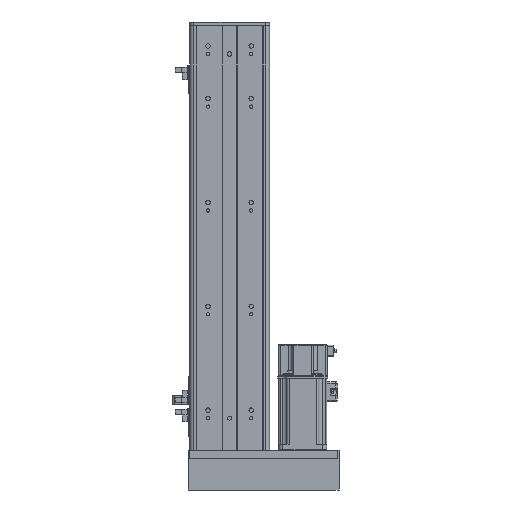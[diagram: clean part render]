
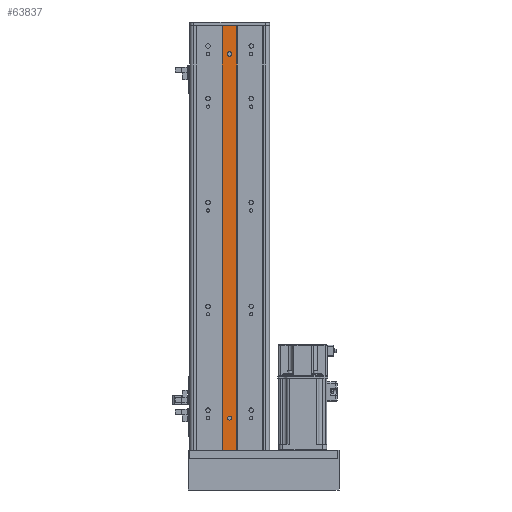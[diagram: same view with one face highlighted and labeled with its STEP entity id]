
A CAD part, front view. The second image highlights one B-rep face of the part: STEP entity #63837.
In plain terms, the highlighted planar face has unit normal (0, -1, 0).
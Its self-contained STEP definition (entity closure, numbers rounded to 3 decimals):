
#221 = VERTEX_POINT ( 'NONE', #45504 ) ;
#929 = DIRECTION ( 'NONE',  ( 1., 0., 0. ) ) ;
#930 = ORIENTED_EDGE ( 'NONE', *, *, #17117, .F. ) ;
#999 = VERTEX_POINT ( 'NONE', #58358 ) ;
#1026 = ORIENTED_EDGE ( 'NONE', *, *, #18123, .T. ) ;
#1317 = CARTESIAN_POINT ( 'NONE',  ( 9., 1.309, 661. ) ) ;
#2037 = CARTESIAN_POINT ( 'NONE',  ( 2.5, 1.309, 661. ) ) ;
#2163 = ORIENTED_EDGE ( 'NONE', *, *, #26363, .T. ) ;
#2353 = LINE ( 'NONE', #1317, #36403 ) ;
#2521 = CIRCLE ( 'NONE', #53332, 2.5 ) ;
#2562 = VECTOR ( 'NONE', #929, 1000. ) ;
#2652 = PLANE ( 'NONE',  #32668 ) ;
#2733 = CARTESIAN_POINT ( 'NONE',  ( -9., 1.309, 661. ) ) ;
#2892 = AXIS2_PLACEMENT_3D ( 'NONE', #43404, #48696, #16884 ) ;
#4512 = EDGE_CURVE ( 'NONE', #42186, #999, #49901, .T. ) ;
#6471 = FACE_OUTER_BOUND ( 'NONE', #57879, .T. ) ;
#6870 = CARTESIAN_POINT ( 'NONE',  ( 2.5, 1.309, 626.5 ) ) ;
#6949 = VERTEX_POINT ( 'NONE', #42593 ) ;
#8155 = CARTESIAN_POINT ( 'NONE',  ( -2.5, 1.309, 661. ) ) ;
#8196 = CARTESIAN_POINT ( 'NONE',  ( 0., 1.309, 661. ) ) ;
#8215 = CIRCLE ( 'NONE', #31992, 2.5 ) ;
#8230 = LINE ( 'NONE', #2037, #22264 ) ;
#11492 = CARTESIAN_POINT ( 'NONE',  ( -2.5, 1.309, 625.5 ) ) ;
#16397 = LINE ( 'NONE', #55220, #28905 ) ;
#16884 = DIRECTION ( 'NONE',  ( 0., 0., 1. ) ) ;
#16992 = DIRECTION ( 'NONE',  ( 0., 0., 1. ) ) ;
#17117 = EDGE_CURVE ( 'NONE', #999, #63131, #2353, .T. ) ;
#18123 = EDGE_CURVE ( 'NONE', #221, #27751, #2521, .T. ) ;
#21207 = DIRECTION ( 'NONE',  ( 0., 0., 1. ) ) ;
#21382 = VECTOR ( 'NONE', #59296, 1000. ) ;
#22264 = VECTOR ( 'NONE', #55613, 1000. ) ;
#22655 = DIRECTION ( 'NONE',  ( 0., 0., -1. ) ) ;
#23076 = LINE ( 'NONE', #2733, #21382 ) ;
#23978 = DIRECTION ( 'NONE',  ( 0., 1., 0. ) ) ;
#23979 = DIRECTION ( 'NONE',  ( 0., 1., 0. ) ) ;
#24162 = EDGE_CURVE ( 'NONE', #63131, #6949, #16397, .T. ) ;
#24438 = EDGE_CURVE ( 'NONE', #45590, #30376, #42137, .T. ) ;
#26363 = EDGE_CURVE ( 'NONE', #38024, #45590, #32482, .T. ) ;
#27725 = EDGE_CURVE ( 'NONE', #33795, #38024, #8215, .T. ) ;
#27751 = VERTEX_POINT ( 'NONE', #55077 ) ;
#27965 = EDGE_LOOP ( 'NONE', ( #38171, #1026 ) ) ;
#28905 = VECTOR ( 'NONE', #34379, 1000. ) ;
#29718 = ORIENTED_EDGE ( 'NONE', *, *, #51685, .T. ) ;
#30376 = VERTEX_POINT ( 'NONE', #6870 ) ;
#31470 = CARTESIAN_POINT ( 'NONE',  ( 0., 1.309, 170. ) ) ;
#31992 = AXIS2_PLACEMENT_3D ( 'NONE', #65858, #49972, #60580 ) ;
#32167 = DIRECTION ( 'NONE',  ( 0., 1., 0. ) ) ;
#32173 = FACE_BOUND ( 'NONE', #27965, .T. ) ;
#32482 = LINE ( 'NONE', #8155, #44925 ) ;
#32668 = AXIS2_PLACEMENT_3D ( 'NONE', #8196, #23978, #61491 ) ;
#33041 = FACE_BOUND ( 'NONE', #33908, .T. ) ;
#33795 = VERTEX_POINT ( 'NONE', #51079 ) ;
#33908 = EDGE_LOOP ( 'NONE', ( #2163, #49194, #29718, #40314 ) ) ;
#34379 = DIRECTION ( 'NONE',  ( -1., 0., 0. ) ) ;
#35562 = EDGE_CURVE ( 'NONE', #42186, #6949, #23076, .T. ) ;
#36403 = VECTOR ( 'NONE', #22655, 1000. ) ;
#37214 = AXIS2_PLACEMENT_3D ( 'NONE', #31470, #32167, #21207 ) ;
#38024 = VERTEX_POINT ( 'NONE', #11492 ) ;
#38171 = ORIENTED_EDGE ( 'NONE', *, *, #39045, .T. ) ;
#39045 = EDGE_CURVE ( 'NONE', #27751, #221, #45394, .T. ) ;
#39485 = CARTESIAN_POINT ( 'NONE',  ( -2.5, 1.309, 626.5 ) ) ;
#40314 = ORIENTED_EDGE ( 'NONE', *, *, #27725, .T. ) ;
#42137 = CIRCLE ( 'NONE', #2892, 2.5 ) ;
#42186 = VERTEX_POINT ( 'NONE', #43424 ) ;
#42593 = CARTESIAN_POINT ( 'NONE',  ( -9., 1.309, 130. ) ) ;
#43404 = CARTESIAN_POINT ( 'NONE',  ( 0., 1.309, 626.5 ) ) ;
#43419 = CARTESIAN_POINT ( 'NONE',  ( -9., 1.309, 661. ) ) ;
#43424 = CARTESIAN_POINT ( 'NONE',  ( -9., 1.309, 661. ) ) ;
#44925 = VECTOR ( 'NONE', #61665, 1000. ) ;
#45394 = CIRCLE ( 'NONE', #37214, 2.5 ) ;
#45504 = CARTESIAN_POINT ( 'NONE',  ( -2.5, 1.309, 170. ) ) ;
#45590 = VERTEX_POINT ( 'NONE', #39485 ) ;
#48696 = DIRECTION ( 'NONE',  ( 0., 1., 0. ) ) ;
#49194 = ORIENTED_EDGE ( 'NONE', *, *, #24438, .T. ) ;
#49598 = CARTESIAN_POINT ( 'NONE',  ( 9., 1.309, 130. ) ) ;
#49717 = ORIENTED_EDGE ( 'NONE', *, *, #35562, .T. ) ;
#49901 = LINE ( 'NONE', #43419, #2562 ) ;
#49972 = DIRECTION ( 'NONE',  ( 0., 1., 0. ) ) ;
#50437 = CARTESIAN_POINT ( 'NONE',  ( 0., 1.309, 170. ) ) ;
#50848 = ORIENTED_EDGE ( 'NONE', *, *, #4512, .F. ) ;
#51079 = CARTESIAN_POINT ( 'NONE',  ( 2.5, 1.309, 625.5 ) ) ;
#51685 = EDGE_CURVE ( 'NONE', #30376, #33795, #8230, .T. ) ;
#53332 = AXIS2_PLACEMENT_3D ( 'NONE', #50437, #23979, #16992 ) ;
#55077 = CARTESIAN_POINT ( 'NONE',  ( 2.5, 1.309, 170. ) ) ;
#55220 = CARTESIAN_POINT ( 'NONE',  ( 0., 1.309, 130. ) ) ;
#55613 = DIRECTION ( 'NONE',  ( 0., 0., -1. ) ) ;
#57879 = EDGE_LOOP ( 'NONE', ( #64787, #930, #50848, #49717 ) ) ;
#58358 = CARTESIAN_POINT ( 'NONE',  ( 9., 1.309, 661. ) ) ;
#59296 = DIRECTION ( 'NONE',  ( 0., 0., -1. ) ) ;
#60580 = DIRECTION ( 'NONE',  ( 0., 0., 1. ) ) ;
#61491 = DIRECTION ( 'NONE',  ( 0., 0., 1. ) ) ;
#61665 = DIRECTION ( 'NONE',  ( 0., 0., 1. ) ) ;
#63131 = VERTEX_POINT ( 'NONE', #49598 ) ;
#63837 = ADVANCED_FACE ( 'NONE', ( #33041, #32173, #6471 ), #2652, .F. ) ;
#64787 = ORIENTED_EDGE ( 'NONE', *, *, #24162, .F. ) ;
#65858 = CARTESIAN_POINT ( 'NONE',  ( 0., 1.309, 625.5 ) ) ;
